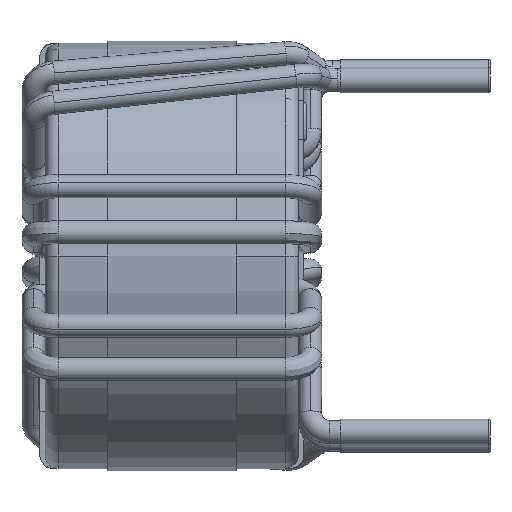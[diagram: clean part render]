
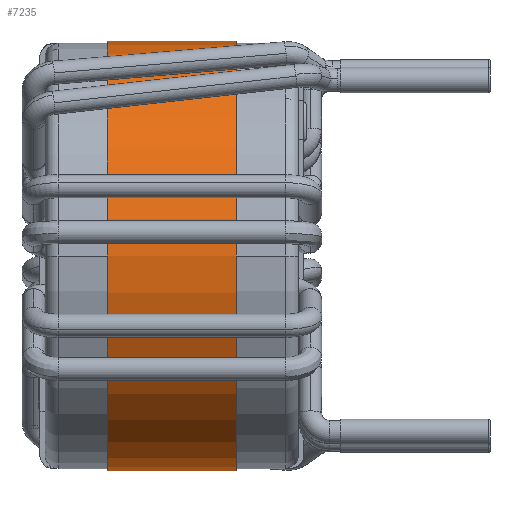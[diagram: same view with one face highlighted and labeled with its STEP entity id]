
A CAD part, left-side view. The second image highlights one B-rep face of the part: STEP entity #7235.
In plain terms, the highlighted cylindrical face has radius 16.68 mm (diameter 33.36 mm), a partial arc.
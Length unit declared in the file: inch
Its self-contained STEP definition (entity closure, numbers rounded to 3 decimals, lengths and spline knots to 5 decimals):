
#231 = CYLINDRICAL_SURFACE ( 'NONE', #8615, 0.65669 ) ;
#588 = AXIS2_PLACEMENT_3D ( 'NONE', #11745, #4367, #8738 ) ;
#1077 = AXIS2_PLACEMENT_3D ( 'NONE', #12169, #11488, #17631 ) ;
#1429 = VERTEX_POINT ( 'NONE', #2755 ) ;
#2671 = EDGE_CURVE ( 'NONE', #20791, #3635, #4652, .T. ) ;
#2749 = LINE ( 'NONE', #15244, #12190 ) ;
#2755 = CARTESIAN_POINT ( 'NONE',  ( 0., -0.19685, 0.65669 ) ) ;
#2965 = CARTESIAN_POINT ( 'NONE',  ( 0., 0.19685, 0. ) ) ;
#3635 = VERTEX_POINT ( 'NONE', #15287 ) ;
#3976 = DIRECTION ( 'NONE',  ( 0., 0., -1. ) ) ;
#4367 = DIRECTION ( 'NONE',  ( 0., 1., 0. ) ) ;
#4652 = CIRCLE ( 'NONE', #588, 0.65669 ) ;
#4866 = CIRCLE ( 'NONE', #1077, 0.65669 ) ;
#6146 = EDGE_CURVE ( 'NONE', #3635, #1429, #17141, .T. ) ;
#7235 = ADVANCED_FACE ( 'NONE', ( #11368 ), #231, .T. ) ;
#7475 = DIRECTION ( 'NONE',  ( 0., -1., 0. ) ) ;
#8086 = EDGE_LOOP ( 'NONE', ( #10592, #17707, #14701, #13332 ) ) ;
#8615 = AXIS2_PLACEMENT_3D ( 'NONE', #2965, #15445, #3976 ) ;
#8738 = DIRECTION ( 'NONE',  ( 0., 0., 1. ) ) ;
#9650 = VECTOR ( 'NONE', #15107, 39.37008 ) ;
#10592 = ORIENTED_EDGE ( 'NONE', *, *, #6146, .F. ) ;
#11368 = FACE_OUTER_BOUND ( 'NONE', #8086, .T. ) ;
#11488 = DIRECTION ( 'NONE',  ( 0., 1., 0. ) ) ;
#11745 = CARTESIAN_POINT ( 'NONE',  ( 0., 0.19685, 0. ) ) ;
#12169 = CARTESIAN_POINT ( 'NONE',  ( 0., -0.19685, 0. ) ) ;
#12190 = VECTOR ( 'NONE', #7475, 39.37008 ) ;
#12425 = EDGE_CURVE ( 'NONE', #15953, #1429, #4866, .T. ) ;
#13332 = ORIENTED_EDGE ( 'NONE', *, *, #12425, .T. ) ;
#14701 = ORIENTED_EDGE ( 'NONE', *, *, #17227, .T. ) ;
#15107 = DIRECTION ( 'NONE',  ( 0., -1., 0. ) ) ;
#15244 = CARTESIAN_POINT ( 'NONE',  ( 0., 0.19685, -0.65669 ) ) ;
#15287 = CARTESIAN_POINT ( 'NONE',  ( 0., 0.19685, 0.65669 ) ) ;
#15445 = DIRECTION ( 'NONE',  ( 0., -1., 0. ) ) ;
#15953 = VERTEX_POINT ( 'NONE', #17260 ) ;
#17141 = LINE ( 'NONE', #19840, #9650 ) ;
#17227 = EDGE_CURVE ( 'NONE', #20791, #15953, #2749, .T. ) ;
#17260 = CARTESIAN_POINT ( 'NONE',  ( 0., -0.19685, -0.65669 ) ) ;
#17631 = DIRECTION ( 'NONE',  ( 0., 0., 1. ) ) ;
#17707 = ORIENTED_EDGE ( 'NONE', *, *, #2671, .F. ) ;
#18073 = CARTESIAN_POINT ( 'NONE',  ( 0., 0.19685, -0.65669 ) ) ;
#19840 = CARTESIAN_POINT ( 'NONE',  ( 0., 0.19685, 0.65669 ) ) ;
#20791 = VERTEX_POINT ( 'NONE', #18073 ) ;
